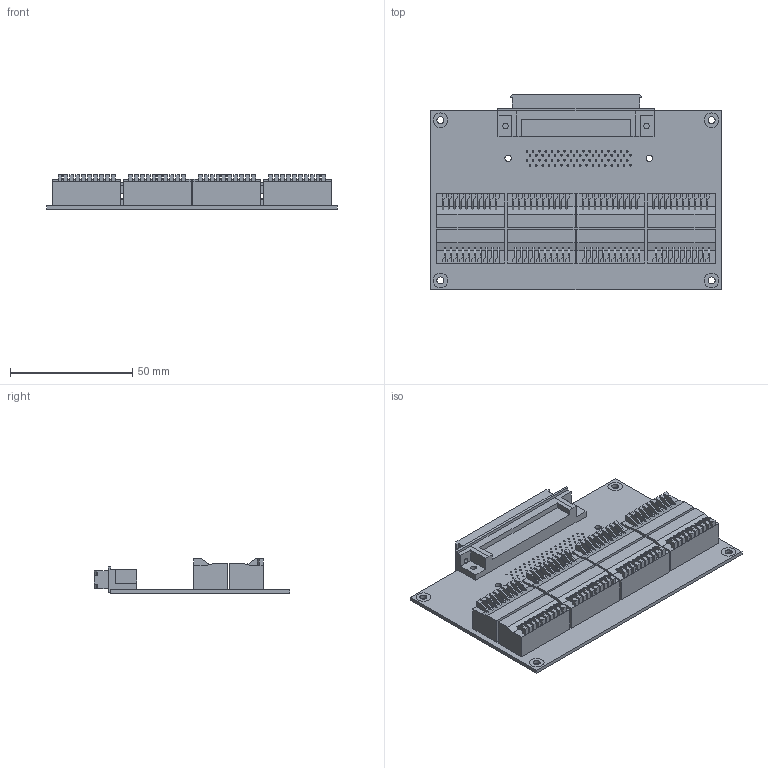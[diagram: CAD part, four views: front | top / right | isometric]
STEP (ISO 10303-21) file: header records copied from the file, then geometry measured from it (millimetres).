
FILE_DESCRIPTION (( 'STEP AP203' ), '1' );
FILE_NAME ('68PIN-RN-RA-0.STEP', '2026-04-27T23:48:16', ( '' ), ( '' ), 'SwSTEP 2.0', 'SolidWorks 2026', '' );
FILE_SCHEMA (( 'CONFIG_CONTROL_DESIGN' ));
Length unit declared in the file: inch
Products named in the file (6): 68PIN-RN-RA-0-Asm1; 68PIN-RN-RA-0; 68PIN-RN-RA-0-Part2; 68PIN-Connector; 68PIN-RN-RA-0-Part3; 68PIN-RN-RA-0-Part1
Assembly tree (21 placements, depth 3):
  68PIN-RN-RA-0
    68PIN-RN-RA-0-Part1
    68PIN-RN-RA-0-Asm1  x8
      68PIN-RN-RA-0-Part2
      68PIN-RN-RA-0-Part3
    68PIN-Connector
Bounding box: 119 x 80.06 x 14.15 mm (x, y, z)
Volume: 51162 mm3; surface area: 40074.6 mm2
Topology: 90 solids, 90 shells, 1091 faces, 2552 edges, 1812 vertices
Faces by surface type: plane 931, cylinder 160
Entity records: 14302 total; most frequent: DIRECTION 2516, CARTESIAN_POINT 2212, ORIENTED_EDGE 2008, AXIS2_PLACEMENT_3D 1084, EDGE_CURVE 1004, VERTEX_POINT 780, EDGE_LOOP 730, CIRCLE 656
